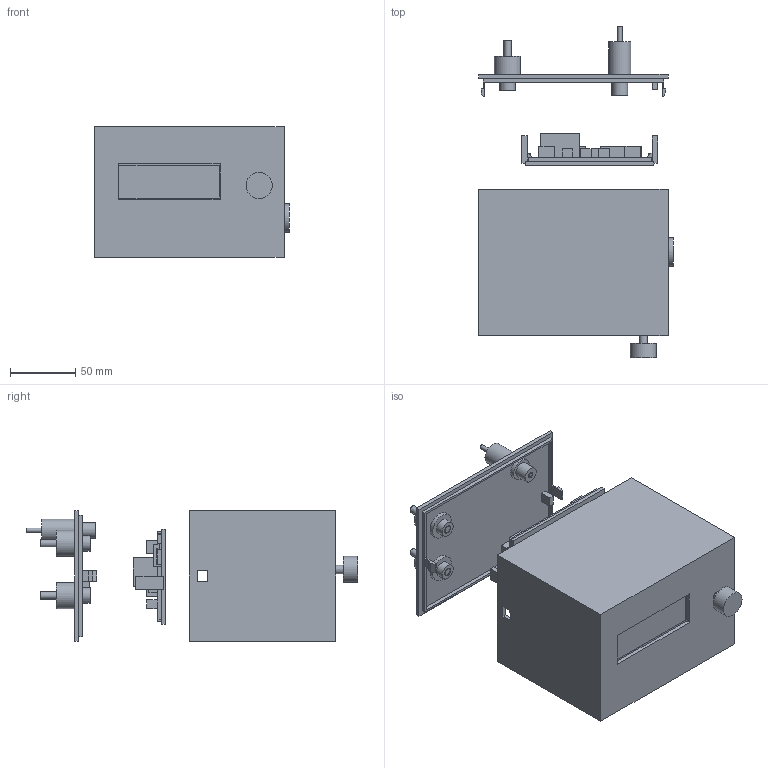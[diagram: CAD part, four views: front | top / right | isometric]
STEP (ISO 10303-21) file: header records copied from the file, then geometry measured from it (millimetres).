
FILE_DESCRIPTION(('Open CASCADE Model'),'2;1');
FILE_NAME('Open CASCADE Shape Model','2026-11-04T20:36:24',('Author'),( 'Open CASCADE'),'Open CASCADE STEP processor 7.8','Open CASCADE 7.8' ,'Unknown');
FILE_SCHEMA(('AUTOMOTIVE_DESIGN { 1 0 10303 214 1 1 1 1 }'));
Length unit declared in the file: millimetre
Products named in the file (66): Exploded_fit_study_03_Rails_USB; 01_Main_shell_with_LCD_and_A_clips; 02_B_removable_carrier_with_clips; 03_Rear_panel_with_latches; PCB_A; A_U1_ENVELOPE; A_U2_ENVELOPE; A_J1_ENVELOPE; A_J6_ENVELOPE; A_J7_ENVELOPE; A_J2_ENVELOPE; A_J3_ENVELOPE; A_J4_ENVELOPE; A_J5_ENVELOPE; A_JP1_ENVELOPE; A_C1_ENVELOPE; A_C2_ENVELOPE; A_C3_ENVELOPE; A_R1_ENVELOPE; A_R2_ENVELOPE; A_R3_ENVELOPE; A_R4_ENVELOPE; A_R5_ENVELOPE; PCB_B; B_U1_ENVELOPE; B_U2_ENVELOPE; B_U3_ENVELOPE; B_U4_ENVELOPE; B_Q1_ENVELOPE; B_F1_ENVELOPE; B_D1_ENVELOPE; B_D2_ENVELOPE; B_J2_ENVELOPE; B_J3_ENVELOPE; B_J4_ENVELOPE; B_J1_ENVELOPE; B_J6_ENVELOPE; B_J7_ENVELOPE; B_C1_ENVELOPE; B_C2_ENVELOPE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
Assembly tree (65 placements, depth 2):
  Exploded_fit_study_03_Rails_USB
    01_Main_shell_with_LCD_and_A_clips
    02_B_removable_carrier_with_clips
    03_Rear_panel_with_latches
    PCB_A
    A_U1_ENVELOPE
    A_U2_ENVELOPE
    A_J1_ENVELOPE
    A_J6_ENVELOPE
    A_J7_ENVELOPE
    A_J2_ENVELOPE
    A_J3_ENVELOPE
    A_J4_ENVELOPE
    A_J5_ENVELOPE
    A_JP1_ENVELOPE
    A_C1_ENVELOPE
    A_C2_ENVELOPE
    A_C3_ENVELOPE
    A_R1_ENVELOPE
    A_R2_ENVELOPE
    A_R3_ENVELOPE
    A_R4_ENVELOPE
    A_R5_ENVELOPE
    PCB_B
    B_U1_ENVELOPE
    B_U2_ENVELOPE
    B_U3_ENVELOPE
    B_U4_ENVELOPE
    B_Q1_ENVELOPE
    B_F1_ENVELOPE
    B_D1_ENVELOPE
    B_D2_ENVELOPE
    B_J2_ENVELOPE
    B_J3_ENVELOPE
    B_J4_ENVELOPE
    B_J1_ENVELOPE
    B_J6_ENVELOPE
    B_J7_ENVELOPE
    B_C1_ENVELOPE
    B_C2_ENVELOPE
    B_C3_ENVELOPE
    B_C4_ENVELOPE
    B_C5_ENVELOPE
    B_R1_ENVELOPE
    B_R2_ENVELOPE
    B_R3_ENVELOPE
    B_R4_ENVELOPE
    B_R5_ENVELOPE
    B_R6_ENVELOPE
    B_R7_ENVELOPE
    LCD_PCB_98x60_TBD
    LCD_front_bezel_TBD
    LCD_backpack_TBD
    LCD_visible_screen
    Encoder_body_TBD
    Encoder_shaft
    Encoder_knob_TBD
    USB_C_PANEL_DATA_EXTENSION_TBD
    USB_C_DEVKIT_MALE_PLUG_TBD
    USB_INTERNAL_DATA_CABLE_ROUTING_ONLY
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Bounding box: 149 x 254 x 100 mm (x, y, z)
Volume: 449254.5 mm3; surface area: 298956.5 mm2
Topology: 65 solids, 65 shells, 711 faces, 1655 edges, 1100 vertices
Faces by surface type: plane 678, cylinder 33
Full cylindrical faces by diameter (mm): 3 x3, 3.5 x1, 4.3 x1, 5.5 x2, 6.3 x2, 6.4 x1, 7.2 x1, 8 x1, 12 x6, 12.4 x1, 12.5 x2, 15 x2, 16 x1, 17 x2, 20 x5, 22 x2
Entity records: 43101 total; most frequent: CARTESIAN_POINT 6896, DIRECTION 6583, LINE 4817, VECTOR 4817, ORIENTED_EDGE 3310, PCURVE 3310, DEFINITIONAL_REPRESENTATION 3310, EDGE_CURVE 1655
